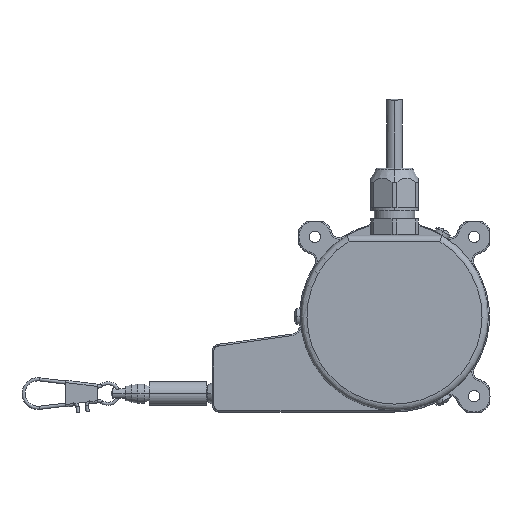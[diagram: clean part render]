
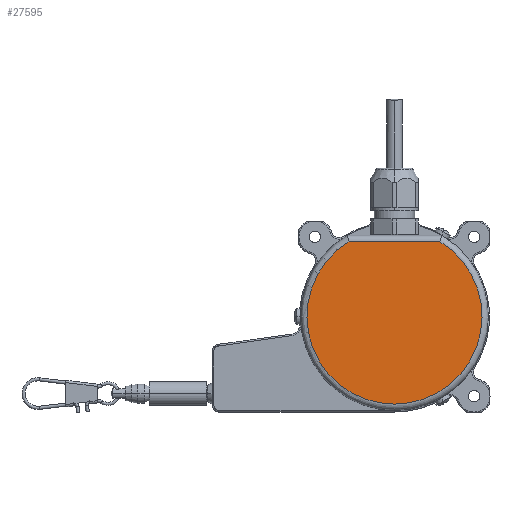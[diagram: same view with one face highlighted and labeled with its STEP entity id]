
A CAD part, left-side view. The second image highlights one B-rep face of the part: STEP entity #27595.
In plain terms, the highlighted planar face has unit normal (-1, 0, 0) as drawn and (0, 0, 1) by its records, which use the part's own axes.
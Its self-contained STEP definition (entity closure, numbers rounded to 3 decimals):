
#26992=CARTESIAN_POINT('',(0.,0.,58.));
#26993=DIRECTION('',(0.,0.,1.));
#26994=DIRECTION('',(0.855,0.519,0.));
#26995=AXIS2_PLACEMENT_3D('',#26992,#26993,#26994);
#27017=DIRECTION('',(0.,1.,0.));
#27018=VECTOR('',#27017,28.566);
#27019=CARTESIAN_POINT('',(23.5,-14.283,58.));
#27020=LINE('',#27019,#27018);
#27077=CARTESIAN_POINT('',(23.5,14.283,58.));
#27078=CARTESIAN_POINT('',(23.5,-14.283,58.));
#27079=VERTEX_POINT('',#27077);
#27080=VERTEX_POINT('',#27078);
#27585=CARTESIAN_POINT('',(0.,0.,58.));
#27586=DIRECTION('',(0.,0.,1.));
#27587=DIRECTION('',(1.,0.,0.));
#27588=AXIS2_PLACEMENT_3D('',#27585,#27586,#27587);
#27589=PLANE('',#27588);
#27590=ORIENTED_EDGE('',*,*,#27574,.F.);
#27592=ORIENTED_EDGE('',*,*,#27591,.F.);
#27593=EDGE_LOOP('',(#27590,#27592));
#27594=FACE_OUTER_BOUND('',#27593,.F.);
#27595=ADVANCED_FACE('',(#27594),#27589,.T.);
#26996=CIRCLE('',#26995,27.5);
#27574=EDGE_CURVE('',#27079,#27080,#26996,.T.);
#27591=EDGE_CURVE('',#27080,#27079,#27020,.T.);
